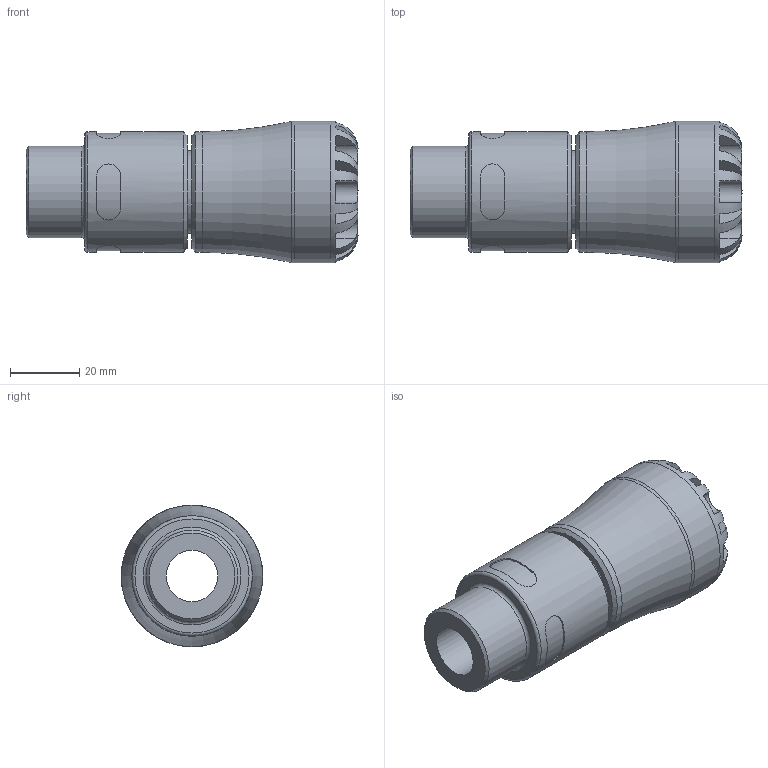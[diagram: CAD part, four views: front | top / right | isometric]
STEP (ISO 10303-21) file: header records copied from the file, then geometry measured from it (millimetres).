
FILE_DESCRIPTION(/* description */ ('PLASSON MALE ADAPTOR 20X3/4" SERIES 1'),/* implementation_level */ '2;1');
FILE_NAME(/* name */ 'C:\Dropbox\KIMPROJECTS-Inventor 2019\99-16-3568-Processing\S1\10N20\stp\10N200020007_10N2G0020007.stp',/* time_stamp */ '2024-03-12T13:19:00+01:00',/* author */ ('KIM'),/* organization */ (''),/* preprocessor_version */ 'ST-DEVELOPER v17.2',/* originating_system */ 'Autodesk Inventor 2019',/* authorisation */ '');
FILE_SCHEMA (('AUTOMOTIVE_DESIGN { 1 0 10303 214 3 1 1 }'));
Length unit declared in the file: millimetre
Products named in the file (1): 10N200020007_10N2G0020007
Bounding box: 96 x 41 x 41 mm (x, y, z)
Volume: 66702.7 mm3; surface area: 19241.1 mm2
Topology: 1 solids, 1 shells, 106 faces, 279 edges, 182 vertices
Faces by surface type: plane 62, cylinder 35, torus 5, cone 4
Full cylindrical faces by diameter (mm): 15 x1, 20 x1, 24 x1, 26.441 x1, 34.85 x2, 41 x1
Entity records: 4218 total; most frequent: CARTESIAN_POINT 1484, ORIENTED_EDGE 558, DIRECTION 552, EDGE_CURVE 279, AXIS2_PLACEMENT_3D 230, VERTEX_POINT 182, CIRCLE 123, EDGE_LOOP 115
